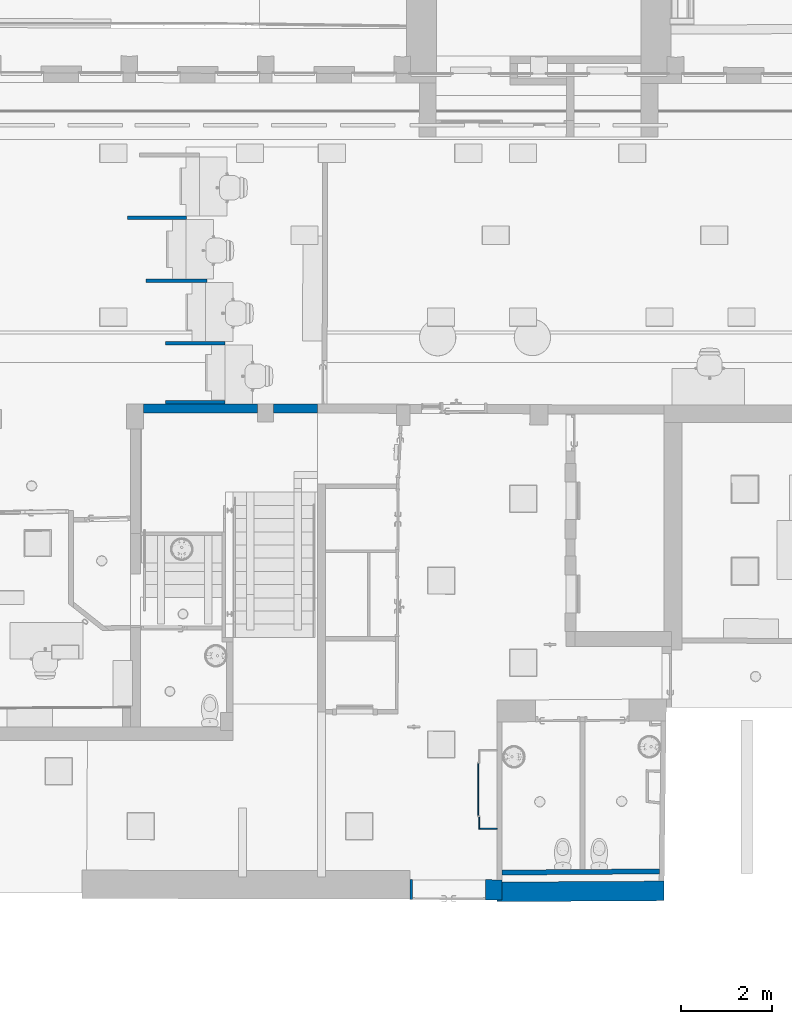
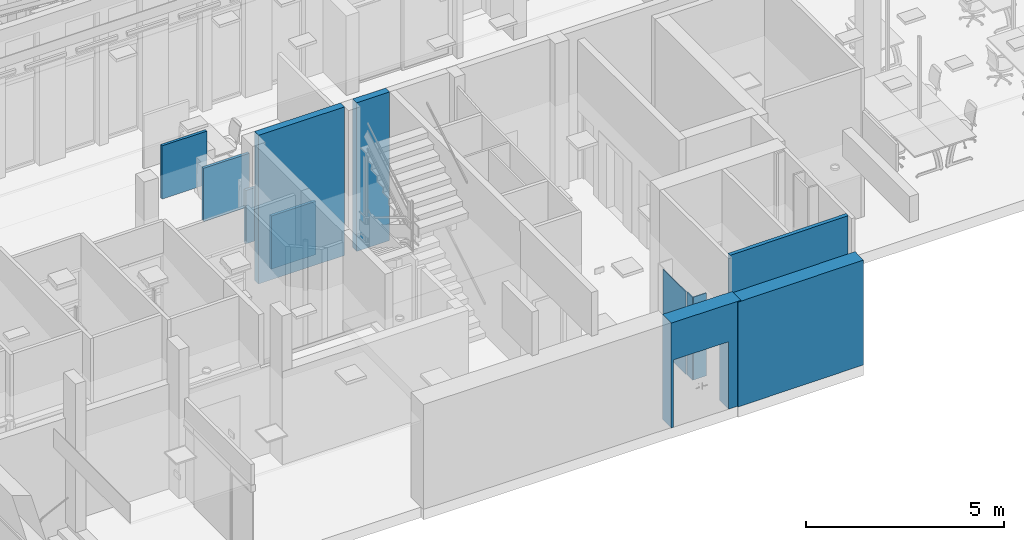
# One storey, part 27 of 128: 11 walls, 2 openings.
"""IFC2X3 building model written with IfcOpenShell, lengths in metres."""

from ifc_helpers import new_model, entity, si_unit, converted_unit, derived_unit, direction, frame, frame_2d, origin, place, context, subcontext, project, spatial, polyline, rectangle, outline, extrude, clip, bounded_halfspace, material, layer, layer_set, layer_usage, type_object, element, save


model = new_model("IFC2X3")

# Units and contexts
model_context = context("Model", 3, precision=1e-05, world=origin(), true_north=direction((6.123031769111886e-17, 1.0)))
body_context = subcontext(model_context, "Body", "Model", "MODEL_VIEW")
ifc_project = project(units=[si_unit("LENGTHUNIT", "METRE"), si_unit("AREAUNIT", "SQUARE_METRE"), converted_unit("PLANEANGLEUNIT", "DEGREE", entity("IfcPlaneAngleMeasure", 0.017453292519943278), si_unit("PLANEANGLEUNIT", "RADIAN"), dimensions=[0, 0, 0, 0, 0, 0, 0]), derived_unit("THERMALTRANSMITTANCEUNIT", [(si_unit("MASSUNIT", "GRAM", prefix="KILO"), 1), (si_unit("THERMODYNAMICTEMPERATUREUNIT", "KELVIN"), -1), (si_unit("TIMEUNIT", "SECOND"), -3)])], contexts=[model_context])

# Site, building, storey
site_placement = place(None, origin())
site = spatial("IfcSite", under=ifc_project, at=site_placement, Name="Default", CompositionType="ELEMENT")
building_placement = place(site_placement, origin())
building = spatial("IfcBuilding", under=site, at=building_placement, CompositionType="ELEMENT")
storey_placement = place(building_placement, origin())
storey = spatial("IfcBuildingStorey", under=building, at=storey_placement, Name="00_RDC CAF", CompositionType="ELEMENT", Elevation=2.4982504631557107e-13)

# Wall
ifc_material_1 = material(Name="ARC - Cloison")
ifc_layer_1 = layer(ifc_material_1, 0.11)
ifc_layer_set_1 = layer_set([ifc_layer_1], Name="Mur de base:Cl_Platre_110mm")
ifc_layer_usage_1 = layer_usage(ifc_layer_set_1, "AXIS2", "NEGATIVE", 0.055)
wall_type_1 = type_object("IfcWallType", Name="Mur de base:Cl_Platre_110mm", PredefinedType="STANDARD", material=ifc_layer_set_1)
wall_1_placement = place(storey_placement, frame((26.9379577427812, 126.58668167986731, 0.0), z_axis=(0.0, 0.0, 1.0), x_axis=(0.9999711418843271, 0.007597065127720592, 0.0)))
element("IfcWallStandardCase", 1, at=wall_1_placement, inside=storey, type_object=wall_type_1, material=ifc_layer_usage_1, Name="Mur de base:Cl_Platre_110mm", ObjectType="Mur de base:Cl_Platre_110mm", context=body_context, shape_type="SweptSolid", body=[
    extrude(outline(polyline([(3.454036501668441, -0.05499999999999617), (3.4562136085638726, 0.05500000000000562), (1.8202370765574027, 0.05500000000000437), (1.710233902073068, 0.05499999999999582), (0.0008357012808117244, 0.05500000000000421), (0.0, -0.055000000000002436), (3.454036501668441, -0.05499999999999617)])), origin(), (0.0, 0.0, 1.0), 4.278),
])

# Wall, opening
ifc_material_2 = material(Name="STR - Beton Mur")
ifc_layer_2 = layer(ifc_material_2, 0.2)
ifc_layer_set_2 = layer_set([ifc_layer_2], Name="Mur de base:M_Int_Beton_200mm")
ifc_layer_usage_2 = layer_usage(ifc_layer_set_2, "AXIS2", "POSITIVE", -0.1)
wall_type_2 = type_object("IfcWallType", Name="Mur de base:M_Int_Beton_200mm", PredefinedType="STANDARD", material=ifc_layer_set_2)
wall_2_placement = place(storey_placement, frame((22.879127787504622, 136.78240449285, 0.0), z_axis=(0.0, 0.0, 1.0), x_axis=(-1.0, 0.0, 0.0)))
wall_2 = element("IfcWallStandardCase", 2, at=wall_2_placement, inside=storey, type_object=wall_type_2, material=ifc_layer_usage_2, Name="Mur de base:M_Int_Beton_200mm", ObjectType="Mur de base:M_Int_Beton_200mm", context=body_context, shape_type="Clipping", body=[
    clip(extrude(rectangle(XDim=3.8216058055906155, YDim=0.1999999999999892, at=frame_2d((1.9108029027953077, -7.494005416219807e-16), x_axis=(-1.0, 0.0))), origin(), (0.0, 0.0, 1.0), 4.5779999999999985), bounded_halfspace(frame((3.8216058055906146, -0.10000000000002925, 4.5779999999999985), z_axis=(-1.0, 0.0, 0.0), x_axis=(0.0, 0.0, -1.0)), True, frame((3.8216058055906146, -0.10000000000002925, 4.5779999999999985), z_axis=(-1.0, 0.0, 0.0), x_axis=(0.0, 0.0, -1.0)), polyline([(0.0, 0.0), (0.0, -0.2000000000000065), (4.5779999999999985, -0.2000000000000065), (4.5779999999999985, 0.0), (0.0, 0.0)]))),
])
opening_1_placement = place(storey_placement, frame((22.879127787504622, 136.78240449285, 0.0), z_axis=(0.0, 0.0, 1.0), x_axis=(-1.0, 0.0, 0.0)))
element("IfcOpeningElement", 3, at=opening_1_placement, cuts=wall_2, Name="Mur de base:M_Int_Beton_200mm:1", ObjectType="Opening", context=body_context, shape_type="SweptSolid", body=[
    extrude(rectangle(XDim=4.5779999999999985, YDim=0.2000000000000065, at=frame_2d((0.0, -8.659739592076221e-15), x_axis=(1.0, 0.0))), frame((1.3097378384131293, 0.0, 2.2889999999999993), z_axis=(-1.0, 0.0, 0.0), x_axis=(0.0, 0.0, 1.0)), (0.0, 0.0, 1.0), 0.3499999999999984),
])

# Walls
ifc_layer_3 = layer(ifc_material_1, 0.08)
ifc_layer_set_3 = layer_set([ifc_layer_3], Name="Mur de base:Cl_Sepration_80mm")
ifc_layer_usage_3 = layer_usage(ifc_layer_set_3, "AXIS2", "POSITIVE", -0.04)
wall_type_3 = type_object("IfcWallType", Name="Mur de base:Cl_Sepration_80mm", PredefinedType="STANDARD", material=ifc_layer_set_3)
wall_3_placement = place(storey_placement, frame((19.549233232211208, 138.2118443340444, 0.15999999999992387)))
element("IfcWallStandardCase", 4, at=wall_3_placement, inside=storey, type_object=wall_type_3, material=ifc_layer_usage_3, Name="Mur de base:Cl_Sepration_80mm", ObjectType="Mur de base:Cl_Sepration_80mm", context=body_context, shape_type="SweptSolid", body=[
    extrude(rectangle(XDim=1.3062879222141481, YDim=0.08000000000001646, at=frame_2d((0.6531439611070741, 0.0), x_axis=(-1.0, 0.0))), origin(), (0.0, 0.0, 1.0), 1.64),
])
ifc_layer_usage_4 = layer_usage(ifc_layer_set_3, "AXIS2", "POSITIVE", -0.04)
wall_4_placement = place(storey_placement, frame((19.120610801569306, 139.5918443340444, 0.15999999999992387)))
element("IfcWallStandardCase", 5, at=wall_4_placement, inside=storey, type_object=wall_type_3, material=ifc_layer_usage_4, Name="Mur de base:Cl_Sepration_80mm", ObjectType="Mur de base:Cl_Sepration_80mm", context=body_context, shape_type="SweptSolid", body=[
    extrude(rectangle(XDim=1.331907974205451, YDim=0.08000000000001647, at=frame_2d((0.6659539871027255, -4.5102810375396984e-17), x_axis=(-1.0, 0.0))), origin(), (0.0, 0.0, 1.0), 1.64),
])
ifc_layer_usage_5 = layer_usage(ifc_layer_set_3, "AXIS2", "POSITIVE", -0.04)
wall_5_placement = place(storey_placement, frame((18.70700363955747, 140.97182648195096, 0.15999999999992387)))
element("IfcWallStandardCase", 6, at=wall_5_placement, inside=storey, type_object=wall_type_3, material=ifc_layer_usage_5, Name="Mur de base:Cl_Sepration_80mm", ObjectType="Mur de base:Cl_Sepration_80mm", context=body_context, shape_type="SweptSolid", body=[
    extrude(rectangle(XDim=1.3036335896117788, YDim=0.08000000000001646, at=frame_2d((0.6518167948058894, 1.9671764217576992e-15), x_axis=(-1.0, 0.0))), origin(), (0.0, 0.0, 1.0), 1.64),
])
ifc_layer_usage_6 = layer_usage(ifc_layer_set_3, "AXIS2", "POSITIVE", -0.04)
wall_6_placement = place(storey_placement, frame((19.54798632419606, 136.92240449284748, 0.15999999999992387)))
element("IfcWallStandardCase", 7, at=wall_6_placement, inside=storey, type_object=wall_type_3, material=ifc_layer_usage_6, Name="Mur de base:Cl_Sepration_80mm", ObjectType="Mur de base:Cl_Sepration_80mm", context=body_context, shape_type="SweptSolid", body=[
    extrude(rectangle(XDim=1.3075348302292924, YDim=0.08000000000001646, at=frame_2d((0.6537674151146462, 0.0), x_axis=(-1.0, 0.0))), origin(), (0.0, 0.0, 1.0), 1.64),
])
ifc_layer_4 = layer(ifc_material_1, 0.025)
ifc_layer_set_4 = layer_set([ifc_layer_4], Name="Mur de base:Cl_Bois_25mm")
ifc_layer_usage_7 = layer_usage(ifc_layer_set_4, "AXIS2", "POSITIVE", -0.0125)
wall_type_4 = type_object("IfcWallType", Name="Mur de base:Cl_Bois_25mm", PredefinedType="STANDARD", material=ifc_layer_set_4)
wall_7_placement = place(storey_placement, frame((26.44837558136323, 127.54877022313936, 0.0)))
element("IfcWallStandardCase", 8, at=wall_7_placement, inside=storey, type_object=wall_type_4, material=ifc_layer_usage_7, Name="Mur de base:Cl_Bois_25mm", ObjectType="Mur de base:Cl_Bois_25mm", context=body_context, shape_type="SweptSolid", body=[
    extrude(rectangle(XDim=0.37999999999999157, YDim=0.02500000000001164, at=frame_2d((0.18999999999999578, 0.0), x_axis=(-1.0, 0.0))), origin(), (0.0, 0.0, 1.0), 2.55),
])
ifc_layer_usage_8 = layer_usage(ifc_layer_set_4, "AXIS2", "POSITIVE", -0.0125)
wall_8_placement = place(storey_placement, frame((26.412875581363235, 128.98727022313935, 0.0), z_axis=(0.0, 0.0, 1.0), x_axis=(0.0, -1.0, 0.0)))
element("IfcWallStandardCase", 9, at=wall_8_placement, inside=storey, type_object=wall_type_4, material=ifc_layer_usage_8, Name="Mur de base:Cl_Bois_25mm", ObjectType="Mur de base:Cl_Bois_25mm", context=body_context, shape_type="SweptSolid", body=[
    extrude(rectangle(XDim=1.150999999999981, YDim=0.025000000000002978, at=frame_2d((0.5754999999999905, -7.216449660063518e-16), x_axis=(-1.0, 0.0))), origin(), (0.0, 0.0, 1.0), 2.55),
])
ifc_layer_usage_9 = layer_usage(ifc_layer_set_4, "AXIS2", "POSITIVE", -0.0125)
wall_9_placement = place(storey_placement, frame((26.43587558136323, 127.81127022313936, 0.0), z_axis=(0.0, 0.0, 1.0), x_axis=(0.0, -1.0, 0.0)))
element("IfcWallStandardCase", 10, at=wall_9_placement, inside=storey, type_object=wall_type_4, material=ifc_layer_usage_9, Name="Mur de base:Cl_Bois_25mm", ObjectType="Mur de base:Cl_Bois_25mm", context=body_context, shape_type="SweptSolid", body=[
    extrude(rectangle(XDim=0.2749999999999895, YDim=0.025000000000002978, at=frame_2d((0.13749999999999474, 3.452099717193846e-16), x_axis=(-1.0, 0.0))), origin(), (0.0, 0.0, 1.0), 2.55),
])

# Wall, opening
ifc_layer_5 = layer(ifc_material_2, 0.44499999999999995)
ifc_layer_set_5 = layer_set([ifc_layer_5], Name="Mur de base:M_Ext_Beton_445mm")
ifc_layer_usage_10 = layer_usage(ifc_layer_set_5, "AXIS2", "NEGATIVE", 0.22249999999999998)
wall_type_5 = type_object("IfcWallType", Name="Mur de base:M_Ext_Beton_445mm", PredefinedType="STANDARD", material=ifc_layer_set_5)
wall_10_placement = place(storey_placement, frame((24.91211306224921, 126.21559617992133, 0.0), z_axis=(0.0, 0.0, 1.0), x_axis=(0.9999881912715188, -0.004859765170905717, 0.0)))
wall_10 = element("IfcWallStandardCase", 11, at=wall_10_placement, inside=storey, type_object=wall_type_5, material=ifc_layer_usage_10, Name="Mur de base:M_Ext_Beton_445mm", ObjectType="Mur de base:M_Ext_Beton_445mm", context=body_context, shape_type="SweptSolid", body=[
    extrude(outline(polyline([(0.0, -0.2225000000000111), (1.9184730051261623, -0.22250000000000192), (2.0273677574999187, -0.222500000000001), (2.0254488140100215, 0.17235875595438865), (2.0252051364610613, 0.22249999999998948), (0.0, 0.2224999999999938), (0.0, -0.2225000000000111)])), origin(), (0.0, 0.0, 1.0), 3.2300000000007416),
])
opening_2_placement = place(wall_10_placement, frame((1.660000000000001, 0.2225000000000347, 0.0)))
element("IfcOpeningElement", 12, at=opening_2_placement, cuts=wall_10, Name="P_Tunnel_Double:P_Int_Double_Pleine_1530x2040mm:1", ObjectType="Opening", context=body_context, shape_type="SweptSolid", body=[
    extrude(rectangle(XDim=2.07500000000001, YDim=1.5999999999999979, at=frame_2d((1.037500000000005, 0.7999999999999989), x_axis=(1.0, 0.0))), frame((0.0, 0.0, 0.0), z_axis=(0.0, -1.0, 0.0), x_axis=(0.0, 0.0, 1.0)), (0.0, 0.0, 1.0), 0.44499999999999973),
])

# Wall
ifc_layer_6 = layer(ifc_material_2, 0.43)
ifc_layer_set_6 = layer_set([ifc_layer_6], Name="Mur de base:M_Ext_Beton_430mm")
ifc_layer_usage_11 = layer_usage(ifc_layer_set_6, "AXIS2", "POSITIVE", -0.215)
wall_type_6 = type_object("IfcWallType", Name="Mur de base:M_Ext_Beton_430mm", PredefinedType="STANDARD", material=ifc_layer_set_6)
wall_11_placement = place(storey_placement, frame((26.828434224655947, 126.16246125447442, 0.0), z_axis=(0.0, 0.0, 1.0), x_axis=(0.9999828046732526, 0.0058643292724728, 0.0)))
element("IfcWallStandardCase", 13, at=wall_11_placement, inside=storey, type_object=wall_type_6, material=ifc_layer_usage_11, Name="Mur de base:M_Ext_Beton_430mm", ObjectType="Mur de base:M_Ext_Beton_430mm", context=body_context, shape_type="SweptSolid", body=[
    extrude(outline(polyline([(-0.11178098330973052, -2.4081061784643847), (0.31828912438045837, -2.4081061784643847), (0.2539740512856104, 1.1533816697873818), (-0.14086001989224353, 1.1485675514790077), (-0.14165846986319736, 1.2574593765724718), (-0.17796370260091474, 1.2568037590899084), (-0.11178098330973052, -2.4081061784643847)])), frame((1.2598121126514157, -0.0597575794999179, 0.0), z_axis=(0.0, 0.0, 1.0), x_axis=(0.018055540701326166, 0.999836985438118, 0.0)), (0.0, 0.0, 1.0), 3.2300000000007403),
])

save(model, "model.ifc")
